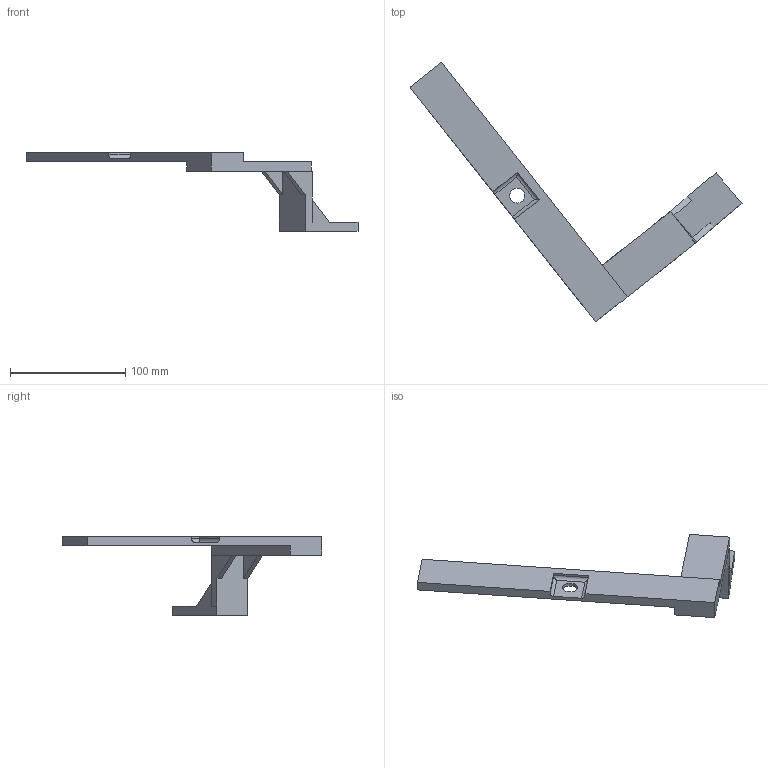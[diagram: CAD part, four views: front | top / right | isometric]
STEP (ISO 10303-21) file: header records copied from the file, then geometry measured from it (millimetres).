
FILE_DESCRIPTION(('CATIA V5 STEP','CAx-IF Rec.Pracs.--- Model Styling and Organization---1.2---2011-12-15'),'2;1');
FILE_NAME('C:\Users\DLXPLPG\Desktop\BEMARTECH\WSPORNIK.stp','2016-06-20T14:36:22+00:00',('none'),('Volkswagen AG'),'CATIA Version 5-6 Release 2014 SP4 HF33','CATIA V5 STEP AP214','none');
FILE_SCHEMA(('AUTOMOTIVE_DESIGN { 1 0 10303 214 1 1 1 1 }'));
Length unit declared in the file: millimetre
Products named in the file (1): PART94
Bounding box: 288.35 x 225.76 x 68.28 mm (x, y, z)
Volume: 132538.3 mm3; surface area: 41143.2 mm2
Topology: 1 solids, 1 shells, 40 faces, 107 edges, 69 vertices
Faces by surface type: plane 35, cylinder 5
Entity records: 1317 total; most frequent: CARTESIAN_POINT 273, ORIENTED_EDGE 214, DIRECTION 171, EDGE_CURVE 107, VECTOR 99, LINE 99, VERTEX_POINT 69, EDGE_LOOP 42
